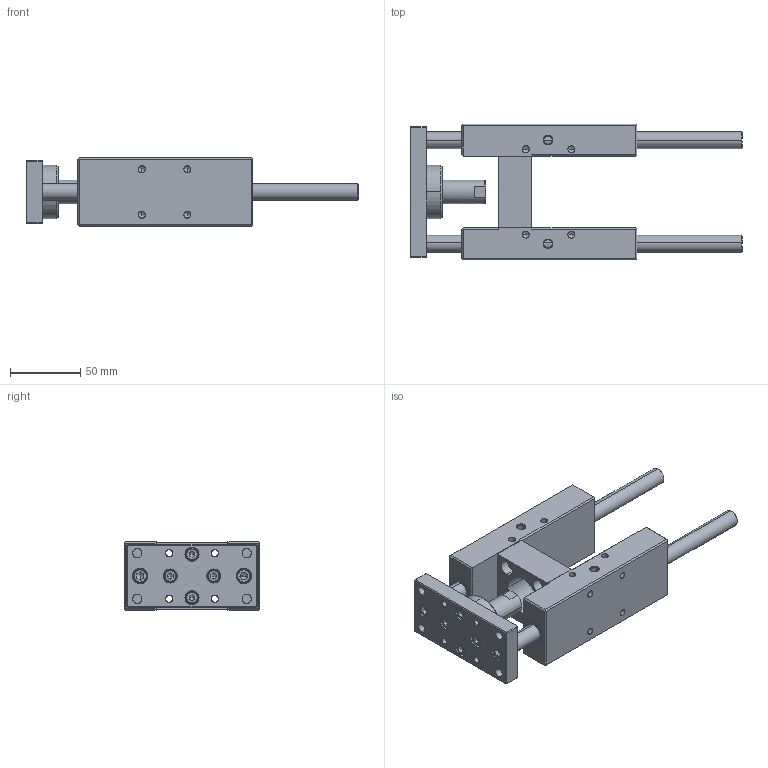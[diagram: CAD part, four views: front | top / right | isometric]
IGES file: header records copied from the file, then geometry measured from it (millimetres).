
Start section: SolidWorks IGES file using analytic representation for surfaces
Global section: file name: C:\Users\Cad01\Desktop\IGES\UNITA' DI GUIDA\VLCHB0320050.igs; native system: SolidWorks 2011; preprocessor: SolidWorks 2011; author: Cad01; date: 120913.161426; units: millimetre
Bounding box: 237 x 97 x 49 mm (x, y, z)
Surface area: 123381.5 mm2 (no closed solid volume)
Topology: 0 solids, 0 shells, 603 faces, 9652 edges, 9604 vertices
Faces by surface type: revolution 386, bspline 217
